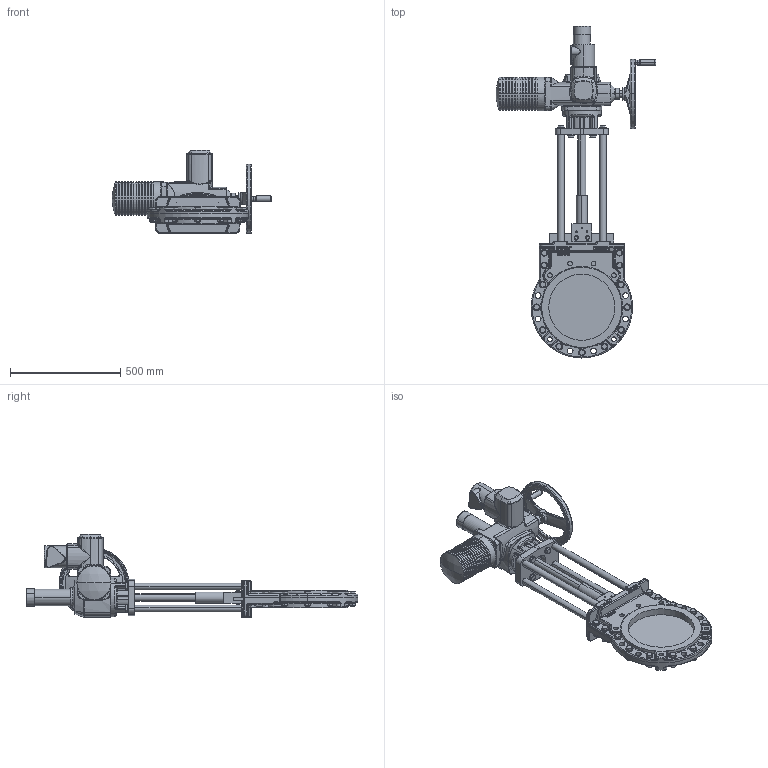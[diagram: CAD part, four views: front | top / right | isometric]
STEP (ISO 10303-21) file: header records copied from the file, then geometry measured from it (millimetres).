
FILE_DESCRIPTION (( 'STEP AP214' ), '1' );
FILE_NAME ('MGE DN 0300 PN16 (SA 14.2).STEP', '2015-09-23T08:47:51', ( 'admin' ), ( 'Hewlett-Packard Company' ), 'SwSTEP 2.0', 'SolidWorks 2013', '' );
FILE_SCHEMA (( 'AUTOMOTIVE_DESIGN' ));
Length unit declared in the file: millimetre
Products named in the file (1): MGE DN 0300 PN16 (SA 14.2)
Bounding box: 725 x 1504.5 x 376.75 mm (x, y, z)
Volume: 29640697.6 mm3; surface area: 2198443.4 mm2
Topology: 76 solids, 88 shells, 3065 faces, 7115 edges, 4294 vertices
Faces by surface type: plane 1016, cylinder 874, cone 506, bspline 387, torus 250, sphere 32
Entity records: 148949 total; most frequent: CARTESIAN_POINT 46958, ORIENTED_EDGE 14082, DIRECTION 13896, EDGE_CURVE 7041, AXIS2_PLACEMENT_3D 5615, VERTEX_POINT 4294, EDGE_LOOP 3391, UNCERTAINTY_MEASURE_WITH_UNIT 3141
